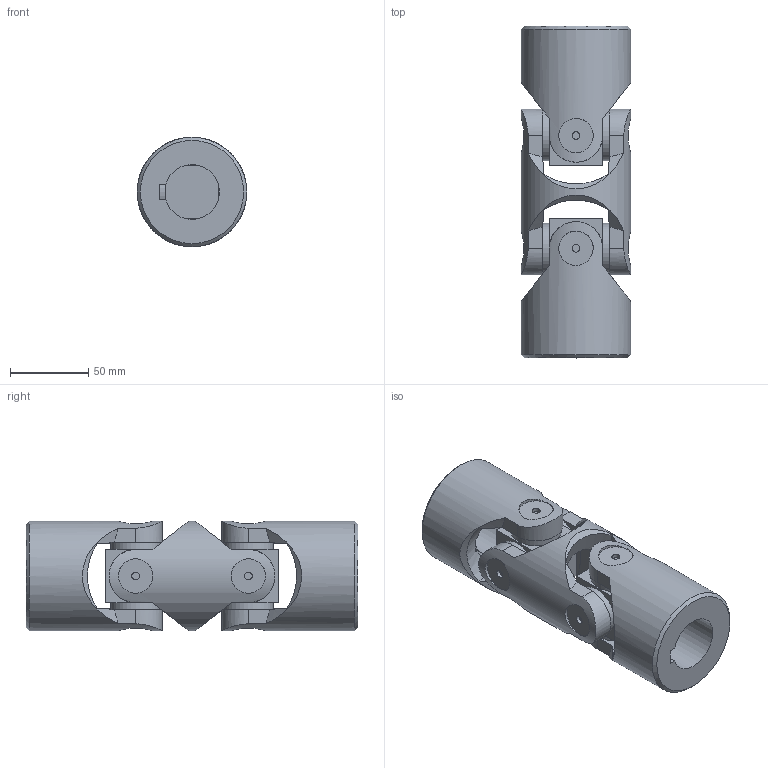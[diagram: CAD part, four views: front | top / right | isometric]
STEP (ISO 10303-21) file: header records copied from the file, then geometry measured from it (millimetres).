
FILE_DESCRIPTION(/* description */ (''),/* implementation_level */ '2;1');
FILE_NAME(/* name */ '\\SRV2016\Societa\Stefano\Disegni 3D\00Catalogo 3D\02Doppi GD-GBD\SG0D352C.stp',/* time_stamp */ '2021-11-23T15:58:36+01:00',/* author */ ('acquisti'),/* organization */ (''),/* preprocessor_version */ 'ST-DEVELOPER v15.6',/* originating_system */ 'Autodesk Inventor 2015',/* authorisation */ '');
FILE_SCHEMA (('AUTOMOTIVE_DESIGN { 1 0 10303 214 3 1 1 }'));
Length unit declared in the file: millimetre
Products named in the file (4): 7G MOD; 7G SFE; 7G MOC; Ø70_7GD-00_SG0D3500
Assembly tree (5 placements, depth 2):
  Ø70_7GD-00_SG0D3500
    7G MOD
    7G SFE  x2
    7G MOC  x2
Bounding box: 70 x 212 x 70 mm (x, y, z)
Volume: 521755.7 mm3; surface area: 97519.9 mm2
Topology: 5 solids, 5 shells, 140 faces, 342 edges, 232 vertices
Faces by surface type: plane 76, cylinder 40, cone 20, torus 4
Full cylindrical faces by diameter (mm): 5 x8, 22 x8, 32 x8, 40 x1, 70 x3
Entity records: 3472 total; most frequent: CARTESIAN_POINT 1327, ORIENTED_EDGE 422, DIRECTION 401, EDGE_CURVE 211, AXIS2_PLACEMENT_3D 172, VERTEX_POINT 159, EDGE_LOOP 134, FACE_OUTER_BOUND 94
